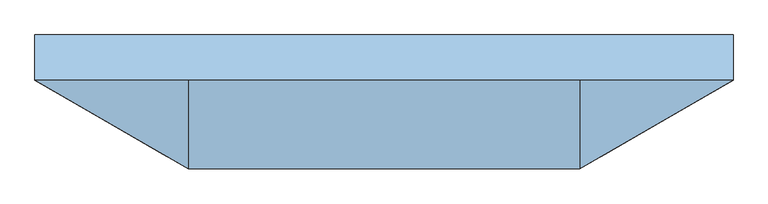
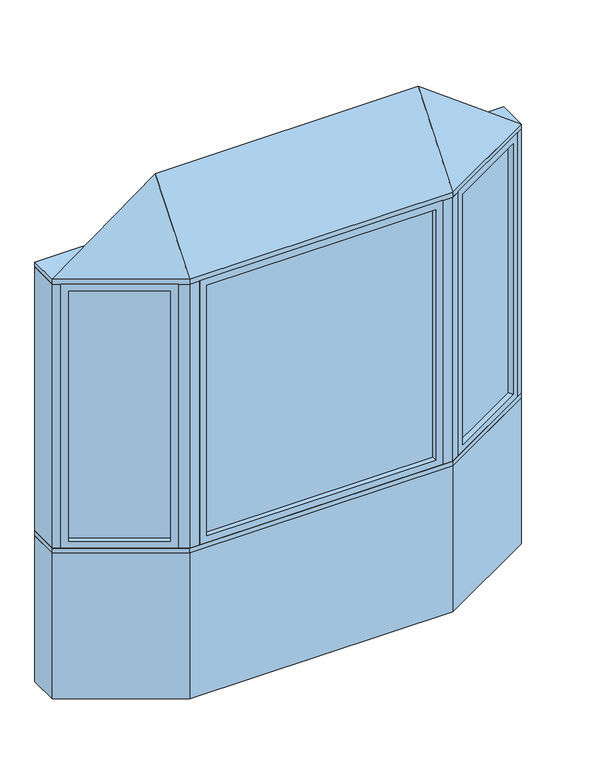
"""IFC4 building model written with IfcOpenShell, lengths in millimetres: window geometry, Pollard_Windows_Tudor Casement Bows and Bays : AML-BAY 30 AFR0614-12-500."""

from ifc_helpers import new_model, si_unit, frame, origin, origin_with_axes, place, context, project, spatial, polyline, outline, extrude, faceted_brep, source, transform, mapped, element, save


def window_55e1be5b(model_context):
    return source(origin(), model_context, "Body", "SolidModel", [
        extrude(outline(polyline([(1113.112102, -82.0482469), (710.2320119, -314.6511754), (707.6920119, -310.2517664), (1110.572102, -77.6488379), (1113.112102, -82.0482469)])), frame((0.0, 0.0, 823.1628), z_axis=(0.0, 0.0, 1.0), x_axis=(1.0, 0.0, 0.0)), (0.0, 0.0, 1.0), 1353.6704),
        faceted_brep([(1102.1135794, -88.3982469, 835.8628), (1114.8135794, -110.3952922, 835.8628), (1114.8135794, -110.3952922, 2164.1332), (1102.1135794, -88.3982469, 2164.1332), (1110.572102, -77.6488379, 823.1628), (1113.112102, -82.0482469, 823.1628), (1113.112102, -82.0482469, 2176.8332), (1110.572102, -77.6488379, 2176.8332), (1086.8735794, -62.0017926, 835.8628), (1099.5735794, -83.9988379, 835.8628), (1099.5735794, -83.9988379, 2164.1332), (1086.8735794, -62.0017926, 2164.1332), (1145.8734073, -92.4628922, 799.998), (1117.9334073, -44.0693926, 799.998), (1117.9334073, -44.0693926, 2199.998), (1145.8734073, -92.4628922, 2199.998), (733.9305346, -330.2982207, 2164.1332), (721.2305346, -308.3011754, 2164.1332), (710.2320119, -314.6511754, 2176.8332), (707.6920119, -310.2517664, 2176.8332), (718.6905346, -303.9017664, 2164.1332), (705.9905346, -281.9047211, 2164.1332), (674.9307067, -299.8371211, 2199.998), (702.8707067, -348.2306207, 2199.998), (733.9305346, -330.2982207, 835.8628), (721.2305346, -308.3011754, 835.8628), (710.2320119, -314.6511754, 823.1628), (707.6920119, -310.2517664, 823.1628), (718.6905346, -303.9017664, 835.8628), (705.9905346, -281.9047211, 835.8628), (674.9307067, -299.8371211, 799.998), (702.8707067, -348.2306207, 799.998)], [[[0, 1, 2, 3]], [[4, 5, 6, 7]], [[8, 9, 10, 11]], [[12, 13, 14, 15]], [[3, 2, 16, 17]], [[7, 6, 18, 19]], [[11, 10, 20, 21]], [[15, 14, 22, 23]], [[17, 16, 24, 25]], [[19, 18, 26, 27]], [[21, 20, 28, 29]], [[23, 22, 30, 31]], [[25, 24, 1, 0]], [[5, 26, 18, 6], [3, 17, 25, 0]], [[27, 26, 5, 4]], [[7, 19, 27, 4], [9, 28, 20, 10]], [[29, 28, 9, 8]], [[13, 30, 22, 14], [11, 21, 29, 8]], [[31, 30, 13, 12]], [[15, 23, 31, 12], [1, 24, 16, 2]]]),
        extrude(outline(polyline([(-710.2320119, -314.6511754), (-1113.112102, -82.0482469), (-1110.572102, -77.6488379), (-707.6920119, -310.2517664), (-710.2320119, -314.6511754)])), frame((0.0, 0.0, 823.1628), z_axis=(0.0, 0.0, 1.0), x_axis=(1.0, 0.0, 0.0)), (0.0, 0.0, 1.0), 1353.6704),
        faceted_brep([(-718.6905346, -303.9017664, 2164.1332), (-705.9905346, -281.9047211, 2164.1332), (-705.9905346, -281.9047211, 835.8628), (-718.6905346, -303.9017664, 835.8628), (-710.2320119, -314.6511754, 2176.8332), (-707.6920119, -310.2517664, 2176.8332), (-707.6920119, -310.2517664, 823.1628), (-710.2320119, -314.6511754, 823.1628), (-733.9305346, -330.2982207, 2164.1332), (-721.2305346, -308.3011754, 2164.1332), (-721.2305346, -308.3011754, 835.8628), (-733.9305346, -330.2982207, 835.8628), (-674.9307067, -299.8371211, 2199.998), (-702.8707067, -348.2306207, 2199.998), (-702.8707067, -348.2306207, 799.998), (-674.9307067, -299.8371211, 799.998), (-1086.8735794, -62.0017926, 835.8628), (-1099.5735794, -83.9988379, 835.8628), (-1110.572102, -77.6488379, 823.1628), (-1113.112102, -82.0482469, 823.1628), (-1102.1135794, -88.3982469, 835.8628), (-1114.8135794, -110.3952922, 835.8628), (-1145.8734073, -92.4628922, 799.998), (-1117.9334073, -44.0693926, 799.998), (-1086.8735794, -62.0017926, 2164.1332), (-1099.5735794, -83.9988379, 2164.1332), (-1110.572102, -77.6488379, 2176.8332), (-1113.112102, -82.0482469, 2176.8332), (-1102.1135794, -88.3982469, 2164.1332), (-1114.8135794, -110.3952922, 2164.1332), (-1145.8734073, -92.4628922, 2199.998), (-1117.9334073, -44.0693926, 2199.998)], [[[0, 1, 2, 3]], [[4, 5, 6, 7]], [[8, 9, 10, 11]], [[12, 13, 14, 15]], [[3, 2, 16, 17]], [[7, 6, 18, 19]], [[11, 10, 20, 21]], [[15, 14, 22, 23]], [[17, 16, 24, 25]], [[19, 18, 26, 27]], [[21, 20, 28, 29]], [[23, 22, 30, 31]], [[15, 23, 31, 12], [1, 24, 16, 2]], [[25, 24, 1, 0]], [[5, 26, 18, 6], [3, 17, 25, 0]], [[27, 26, 5, 4]], [[7, 19, 27, 4], [9, 28, 20, 10]], [[29, 28, 9, 8]], [[13, 30, 22, 14], [11, 21, 29, 8]], [[31, 30, 13, 12]]]),
        extrude(outline(polyline([(586.4046365, -347.8306207), (-586.4046365, -347.8306207), (-586.4046365, -342.7506207), (586.4046365, -342.7506207), (586.4046365, -347.8306207)])), frame((0.0, 0.0, 823.1628), z_axis=(0.0, 0.0, 1.0), x_axis=(1.0, 0.0, 0.0)), (0.0, 0.0, 1.0), 1353.6704),
        faceted_brep([(573.7046365, -347.8306207, 835.8628), (573.7046365, -373.2306207, 835.8628), (573.7046365, -373.2306207, 2164.1332), (573.7046365, -347.8306207, 2164.1332), (586.4046365, -342.7506207, 823.1628), (586.4046365, -347.8306207, 823.1628), (586.4046365, -347.8306207, 2176.8332), (586.4046365, -342.7506207, 2176.8332), (573.7046365, -317.3506207, 835.8628), (573.7046365, -342.7506207, 835.8628), (573.7046365, -342.7506207, 2164.1332), (573.7046365, -317.3506207, 2164.1332), (609.5694365, -373.2306207, 799.998), (609.5694365, -317.3506207, 799.998), (609.5694365, -317.3506207, 2199.998), (609.5694365, -373.2306207, 2199.998), (-573.7046365, -373.2306207, 2164.1332), (-573.7046365, -347.8306207, 2164.1332), (-586.4046365, -347.8306207, 2176.8332), (-586.4046365, -342.7506207, 2176.8332), (-573.7046365, -342.7506207, 2164.1332), (-573.7046365, -317.3506207, 2164.1332), (-609.5694365, -317.3506207, 2199.998), (-609.5694365, -373.2306207, 2199.998), (-573.7046365, -373.2306207, 835.8628), (-573.7046365, -347.8306207, 835.8628), (-586.4046365, -347.8306207, 823.1628), (-586.4046365, -342.7506207, 823.1628), (-573.7046365, -342.7506207, 835.8628), (-573.7046365, -317.3506207, 835.8628), (-609.5694365, -317.3506207, 799.998), (-609.5694365, -373.2306207, 799.998)], [[[0, 1, 2, 3]], [[4, 5, 6, 7]], [[8, 9, 10, 11]], [[12, 13, 14, 15]], [[3, 2, 16, 17]], [[7, 6, 18, 19]], [[11, 10, 20, 21]], [[15, 14, 22, 23]], [[17, 16, 24, 25]], [[19, 18, 26, 27]], [[21, 20, 28, 29]], [[23, 22, 30, 31]], [[15, 23, 31, 12], [1, 24, 16, 2]], [[25, 24, 1, 0]], [[5, 26, 18, 6], [3, 17, 25, 0]], [[27, 26, 5, 4]], [[7, 19, 27, 4], [9, 28, 20, 10]], [[29, 28, 9, 8]], [[13, 30, 22, 14], [11, 21, 29, 8]], [[31, 30, 13, 12]]]),
        faceted_brep([(1176.5, -74.7806207, 2225.398), (659.5694365, -373.2306207, 2225.398), (-659.5694365, -373.2306207, 2225.398), (-1176.5, -74.7806207, 2225.398), (-659.5694365, -74.7806207, 2606.398), (659.5694365, -74.7806207, 2606.398)], [[[0, 1, 2, 3]], [[3, 2, 4]], [[2, 1, 5, 4]], [[1, 0, 5]], [[0, 3, 4, 5]]]),
        extrude(outline(polyline([(-1176.5, 77.6193793), (1176.5, 77.6193793), (1176.5, -74.7806207), (659.5694365, -373.2306207), (-659.5694365, -373.2306207), (-1176.5, -74.7806207), (-1176.5, 77.6193793)])), frame((0.0, 0.0, 2199.998), z_axis=(0.0, 0.0, 1.0), x_axis=(1.0, 0.0, 0.0)), (0.0, 0.0, 1.0), 25.4),
        extrude(outline(polyline([(-1176.5, -74.7806207), (-1176.5, 77.6193793), (-1135.6645431, 77.6193793), (-1135.6645431, -74.7806207), (-1145.8734073, -92.4628922), (-1176.5, -74.7806207)])), frame((0.0, 0.0, 799.998), z_axis=(0.0, 0.0, 1.0), x_axis=(1.0, 0.0, 0.0)), (0.0, 0.0, 1.0), 1400.0),
        extrude(outline(polyline([(1176.5, 77.6193793), (1176.5, -74.7806207), (1145.8734073, -92.4628922), (1135.6645431, -74.7806207), (1135.6645431, 77.6193793), (1176.5, 77.6193793)])), frame((0.0, 0.0, 799.998), z_axis=(0.0, 0.0, 1.0), x_axis=(1.0, 0.0, 0.0)), (0.0, 0.0, 1.0), 1400.0),
        extrude(outline(polyline([(659.5694365, -373.2306207), (609.5694365, -373.2306207), (609.5694365, -323.2306207), (646.1719769, -323.2306207), (677.8707067, -304.9293505), (702.8707067, -348.2306207), (659.5694365, -373.2306207)])), frame((0.0, 0.0, 799.998), z_axis=(0.0, 0.0, 1.0), x_axis=(1.0, 0.0, 0.0)), (0.0, 0.0, 1.0), 1400.0),
        extrude(outline(polyline([(-659.5694365, -373.2306207), (-702.8707067, -348.2306207), (-677.8707067, -304.9293505), (-646.1719769, -323.2306207), (-609.5694365, -323.2306207), (-609.5694365, -373.2306207), (-659.5694365, -373.2306207)])), frame((0.0, 0.0, 799.998), z_axis=(0.0, 0.0, 1.0), x_axis=(1.0, 0.0, 0.0)), (0.0, 0.0, 1.0), 1400.0),
        extrude(outline(polyline([(-659.5694365, -373.2306207), (-1176.5, -74.7806207), (-1176.5, 77.6193793), (-1135.6645431, 77.6193793), (-618.7339796, -220.8306207), (618.7339796, -220.8306207), (1135.6645431, 77.6193793), (1176.5, 77.6193793), (1176.5, -74.7806207), (659.5694365, -373.2306207), (-659.5694365, -373.2306207)])), frame((0.0, 0.0, 774.598), z_axis=(0.0, 0.0, 1.0), x_axis=(1.0, 0.0, 0.0)), (0.0, 0.0, 1.0), 25.4),
        extrude(outline(polyline([(-1176.5, -74.7806207), (-1176.5, 77.6193793), (-1135.6645431, 77.6193793), (-618.7339796, -220.8306207), (618.7339796, -220.8306207), (1135.6645431, 77.6193793), (1176.5, 77.6193793), (1176.5, -74.7806207), (659.5694365, -373.2306207), (-659.5694365, -373.2306207), (-1176.5, -74.7806207)])), origin_with_axes(), (0.0, 0.0, 1.0), 774.598),
    ])


if __name__ == "__main__":
    model = new_model("IFC4")
    model_context = context("Model", 3, world=origin())
    ifc_project = project(units=[si_unit("LENGTHUNIT", "METRE", prefix="MILLI")], contexts=[model_context])
    site = spatial("IfcSite", under=ifc_project)
    building = spatial("IfcBuilding", under=site)
    placement = place(None, origin())
    window_shape = window_55e1be5b(model_context)
    element("IfcWindow", 1, ObjectType="Pollard_Windows_Tudor Casement Bows and Bays : AML-BAY 30 AFR0614-12-500", at=placement, inside=building, context=model_context, shape_type="MappedRepresentation", body=[
        mapped(window_shape, transform((0.0, 0.0, 0.0), x_axis=(1.0, 0.0, 0.0), y_axis=(0.0, 1.0, 0.0), z_axis=(0.0, 0.0, 1.0))),
    ])
    save(model, "model.ifc")
